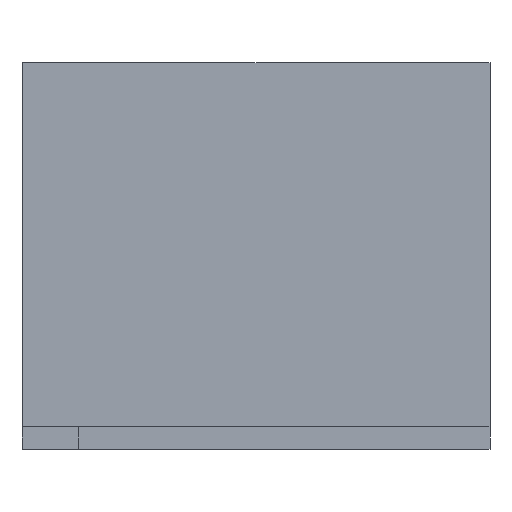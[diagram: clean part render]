
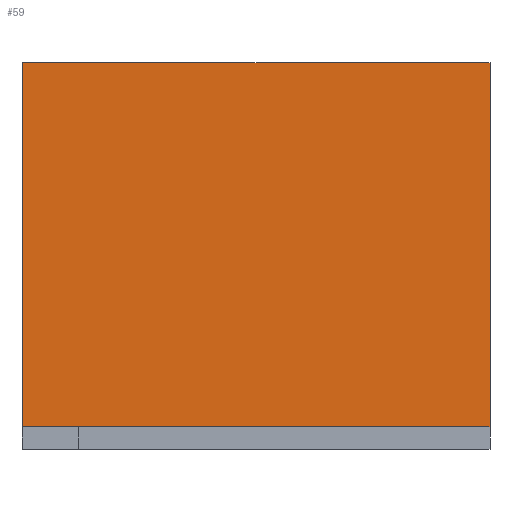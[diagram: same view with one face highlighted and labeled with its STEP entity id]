
A CAD part, front view. The second image highlights one B-rep face of the part: STEP entity #59.
In plain terms, the highlighted planar face has unit normal (0, -1, 0).
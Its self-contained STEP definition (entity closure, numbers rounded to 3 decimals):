
#59 = ADVANCED_FACE('',(#60),#102,.F.);
#60 = FACE_BOUND('',#61,.F.);
#61 = EDGE_LOOP('',(#62,#72,#80,#88,#96));
#62 = ORIENTED_EDGE('',*,*,#63,.T.);
#63 = EDGE_CURVE('',#64,#66,#68,.T.);
#64 = VERTEX_POINT('',#65);
#65 = CARTESIAN_POINT('',(0.,0.,0.));
#66 = VERTEX_POINT('',#67);
#67 = CARTESIAN_POINT('',(0.,0.,21.));
#68 = LINE('',#69,#70);
#69 = CARTESIAN_POINT('',(0.,0.,0.));
#70 = VECTOR('',#71,1.);
#71 = DIRECTION('',(0.,0.,1.));
#72 = ORIENTED_EDGE('',*,*,#73,.T.);
#73 = EDGE_CURVE('',#66,#74,#76,.T.);
#74 = VERTEX_POINT('',#75);
#75 = CARTESIAN_POINT('',(27.,0.,21.));
#76 = LINE('',#77,#78);
#77 = CARTESIAN_POINT('',(0.,0.,21.));
#78 = VECTOR('',#79,1.);
#79 = DIRECTION('',(1.,0.,0.));
#80 = ORIENTED_EDGE('',*,*,#81,.F.);
#81 = EDGE_CURVE('',#82,#74,#84,.T.);
#82 = VERTEX_POINT('',#83);
#83 = CARTESIAN_POINT('',(27.,0.,0.));
#84 = LINE('',#85,#86);
#85 = CARTESIAN_POINT('',(27.,0.,0.));
#86 = VECTOR('',#87,1.);
#87 = DIRECTION('',(0.,0.,1.));
#88 = ORIENTED_EDGE('',*,*,#89,.F.);
#89 = EDGE_CURVE('',#90,#82,#92,.T.);
#90 = VERTEX_POINT('',#91);
#91 = CARTESIAN_POINT('',(3.28,0.,0.));
#92 = LINE('',#93,#94);
#93 = CARTESIAN_POINT('',(0.,0.,0.));
#94 = VECTOR('',#95,1.);
#95 = DIRECTION('',(1.,0.,0.));
#96 = ORIENTED_EDGE('',*,*,#97,.F.);
#97 = EDGE_CURVE('',#64,#90,#98,.T.);
#98 = LINE('',#99,#100);
#99 = CARTESIAN_POINT('',(0.,0.,0.));
#100 = VECTOR('',#101,1.);
#101 = DIRECTION('',(1.,0.,0.));
#102 = PLANE('',#103);
#103 = AXIS2_PLACEMENT_3D('',#104,#105,#106);
#104 = CARTESIAN_POINT('',(0.,0.,0.));
#105 = DIRECTION('',(0.,1.,0.));
#106 = DIRECTION('',(1.,0.,0.));
